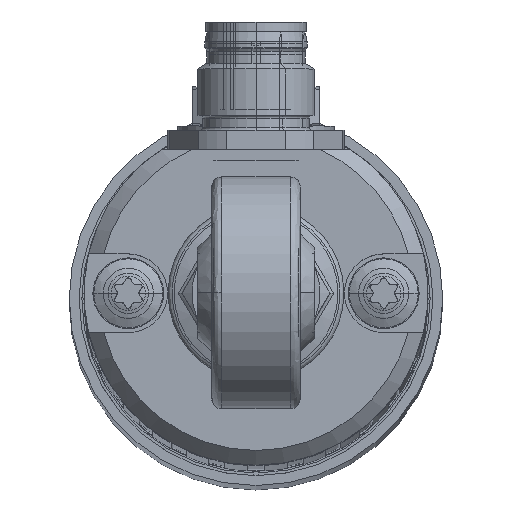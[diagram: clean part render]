
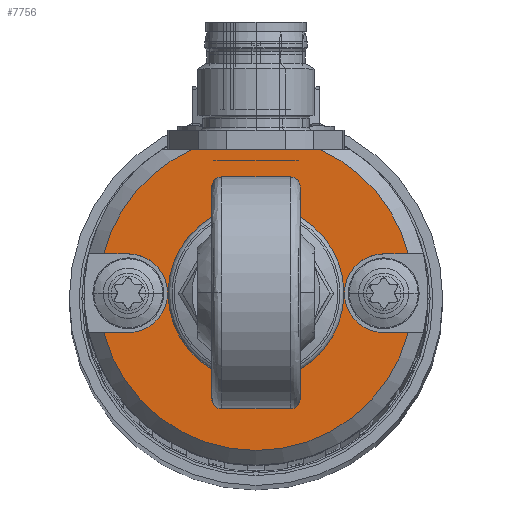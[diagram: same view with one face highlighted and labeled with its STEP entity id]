
A CAD part, top view. The second image highlights one B-rep face of the part: STEP entity #7756.
In plain terms, the highlighted planar face has unit normal (0, 0, 1).
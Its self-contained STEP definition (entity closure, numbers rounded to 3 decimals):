
#7536 = VERTEX_POINT ( 'NONE', #41910 ) ;
#7541 = EDGE_CURVE ( 'NONE', #7536, #7543, #41899, .T. ) ;
#7543 = VERTEX_POINT ( 'NONE', #41893 ) ;
#7734 = EDGE_CURVE ( 'NONE', #7820, #7735, #42364, .T. ) ;
#7735 = VERTEX_POINT ( 'NONE', #42359 ) ;
#7738 = ORIENTED_EDGE ( 'NONE', *, *, #7740, .F. ) ;
#7740 = EDGE_CURVE ( 'NONE', #7742, #7735, #42352, .T. ) ;
#7742 = VERTEX_POINT ( 'NONE', #42348 ) ;
#7745 = ORIENTED_EDGE ( 'NONE', *, *, #7746, .F. ) ;
#7746 = EDGE_CURVE ( 'NONE', #7782, #7742, #42401, .T. ) ;
#7756 = ADVANCED_FACE ( 'NONE', ( #42386, #42385 ), #42429, .F. ) ;
#7757 = EDGE_LOOP ( 'NONE', ( #7759, #7764 ) ) ;
#7759 = ORIENTED_EDGE ( 'NONE', *, *, #7761, .F. ) ;
#7761 = EDGE_CURVE ( 'NONE', #7543, #7536, #42428, .T. ) ;
#7764 = ORIENTED_EDGE ( 'NONE', *, *, #7541, .F. ) ;
#7765 = EDGE_LOOP ( 'NONE', ( #7768, #7811, #7817, #7823, #7738, #7745, #7785, #7791, #7797, #7803 ) ) ;
#7768 = ORIENTED_EDGE ( 'NONE', *, *, #7770, .T. ) ;
#7770 = EDGE_CURVE ( 'NONE', #7771, #7772, #42407, .T. ) ;
#7771 = VERTEX_POINT ( 'NONE', #42403 ) ;
#7772 = VERTEX_POINT ( 'NONE', #42402 ) ;
#7782 = VERTEX_POINT ( 'NONE', #42439 ) ;
#7785 = ORIENTED_EDGE ( 'NONE', *, *, #7787, .T. ) ;
#7787 = EDGE_CURVE ( 'NONE', #7782, #7788, #42432, .T. ) ;
#7788 = VERTEX_POINT ( 'NONE', #42490 ) ;
#7791 = ORIENTED_EDGE ( 'NONE', *, *, #7793, .T. ) ;
#7793 = EDGE_CURVE ( 'NONE', #7788, #7794, #42483, .T. ) ;
#7794 = VERTEX_POINT ( 'NONE', #42478 ) ;
#7797 = ORIENTED_EDGE ( 'NONE', *, *, #7799, .F. ) ;
#7799 = EDGE_CURVE ( 'NONE', #7800, #7794, #42471, .T. ) ;
#7800 = VERTEX_POINT ( 'NONE', #42467 ) ;
#7803 = ORIENTED_EDGE ( 'NONE', *, *, #7804, .F. ) ;
#7804 = EDGE_CURVE ( 'NONE', #7771, #7800, #42520, .T. ) ;
#7811 = ORIENTED_EDGE ( 'NONE', *, *, #7813, .T. ) ;
#7813 = EDGE_CURVE ( 'NONE', #7772, #7814, #42547, .T. ) ;
#7814 = VERTEX_POINT ( 'NONE', #42543 ) ;
#7817 = ORIENTED_EDGE ( 'NONE', *, *, #7819, .T. ) ;
#7819 = EDGE_CURVE ( 'NONE', #7814, #7820, #42536, .T. ) ;
#7820 = VERTEX_POINT ( 'NONE', #42532 ) ;
#7823 = ORIENTED_EDGE ( 'NONE', *, *, #7734, .T. ) ;
#41893 = CARTESIAN_POINT ( 'NONE',  ( 0., -4.3, 330.7 ) ) ;
#41895 = DIRECTION ( 'NONE',  ( 0., -1., 0. ) ) ;
#41896 = DIRECTION ( 'NONE',  ( 0., 0., 1. ) ) ;
#41897 = CARTESIAN_POINT ( 'NONE',  ( 0., 0., 330.7 ) ) ;
#41898 = AXIS2_PLACEMENT_3D ( 'NONE', #41897, #41896, #41895 ) ;
#41899 = CIRCLE ( 'NONE', #41898, 4.3 ) ;
#41910 = CARTESIAN_POINT ( 'NONE',  ( 0., 4.3, 330.7 ) ) ;
#42346 = CARTESIAN_POINT ( 'NONE',  ( -13., 0., 330.7 ) ) ;
#42348 = CARTESIAN_POINT ( 'NONE',  ( -13., 4., 330.7 ) ) ;
#42349 = DIRECTION ( 'NONE',  ( -1., 0., 0. ) ) ;
#42350 = VECTOR ( 'NONE', #42349, 1000. ) ;
#42351 = CARTESIAN_POINT ( 'NONE',  ( -20., 4., 330.7 ) ) ;
#42352 = LINE ( 'NONE', #42351, #42350 ) ;
#42359 = CARTESIAN_POINT ( 'NONE',  ( -15.492, 4., 330.7 ) ) ;
#42360 = DIRECTION ( 'NONE',  ( 0., 1., 0. ) ) ;
#42361 = DIRECTION ( 'NONE',  ( 0., 0., 1. ) ) ;
#42362 = CARTESIAN_POINT ( 'NONE',  ( 0., 0., 330.7 ) ) ;
#42363 = AXIS2_PLACEMENT_3D ( 'NONE', #42362, #42361, #42360 ) ;
#42364 = CIRCLE ( 'NONE', #42363, 16. ) ;
#42385 = FACE_OUTER_BOUND ( 'NONE', #7765, .T. ) ;
#42386 = FACE_BOUND ( 'NONE', #7757, .T. ) ;
#42398 = DIRECTION ( 'NONE',  ( 0., -1., 0. ) ) ;
#42399 = DIRECTION ( 'NONE',  ( 0., 0., 1. ) ) ;
#42400 = AXIS2_PLACEMENT_3D ( 'NONE', #42346, #42399, #42398 ) ;
#42401 = CIRCLE ( 'NONE', #42400, 4. ) ;
#42402 = CARTESIAN_POINT ( 'NONE',  ( 15.492, 4., 330.7 ) ) ;
#42403 = CARTESIAN_POINT ( 'NONE',  ( 13., 4., 330.7 ) ) ;
#42404 = DIRECTION ( 'NONE',  ( 1., 0., 0. ) ) ;
#42405 = VECTOR ( 'NONE', #42404, 1000. ) ;
#42406 = CARTESIAN_POINT ( 'NONE',  ( 0., 4., 330.7 ) ) ;
#42407 = LINE ( 'NONE', #42406, #42405 ) ;
#42420 = DIRECTION ( 'NONE',  ( 0., -1., 0. ) ) ;
#42421 = DIRECTION ( 'NONE',  ( 0., 0., 1. ) ) ;
#42422 = CARTESIAN_POINT ( 'NONE',  ( 0., 0., 330.7 ) ) ;
#42423 = AXIS2_PLACEMENT_3D ( 'NONE', #42422, #42421, #42420 ) ;
#42424 = DIRECTION ( 'NONE',  ( 0., 1., 0. ) ) ;
#42425 = DIRECTION ( 'NONE',  ( 0., 0., -1. ) ) ;
#42426 = CARTESIAN_POINT ( 'NONE',  ( 0., 0., 330.7 ) ) ;
#42427 = AXIS2_PLACEMENT_3D ( 'NONE', #42426, #42425, #42424 ) ;
#42428 = CIRCLE ( 'NONE', #42423, 4.3 ) ;
#42429 = PLANE ( 'NONE',  #42427 ) ;
#42431 = CARTESIAN_POINT ( 'NONE',  ( 0., -4., 330.7 ) ) ;
#42432 = LINE ( 'NONE', #42431, #42492 ) ;
#42439 = CARTESIAN_POINT ( 'NONE',  ( -13., -4., 330.7 ) ) ;
#42467 = CARTESIAN_POINT ( 'NONE',  ( 13., -4., 330.7 ) ) ;
#42468 = DIRECTION ( 'NONE',  ( 1., 0., 0. ) ) ;
#42469 = VECTOR ( 'NONE', #42468, 1000. ) ;
#42470 = CARTESIAN_POINT ( 'NONE',  ( 13., -4., 330.7 ) ) ;
#42471 = LINE ( 'NONE', #42470, #42469 ) ;
#42478 = CARTESIAN_POINT ( 'NONE',  ( 15.492, -4., 330.7 ) ) ;
#42479 = DIRECTION ( 'NONE',  ( 0., 1., 0. ) ) ;
#42480 = DIRECTION ( 'NONE',  ( 0., 0., 1. ) ) ;
#42481 = CARTESIAN_POINT ( 'NONE',  ( 0., 0., 330.7 ) ) ;
#42482 = AXIS2_PLACEMENT_3D ( 'NONE', #42481, #42480, #42479 ) ;
#42483 = CIRCLE ( 'NONE', #42482, 16. ) ;
#42490 = CARTESIAN_POINT ( 'NONE',  ( -15.492, -4., 330.7 ) ) ;
#42491 = DIRECTION ( 'NONE',  ( -1., 0., 0. ) ) ;
#42492 = VECTOR ( 'NONE', #42491, 1000. ) ;
#42516 = DIRECTION ( 'NONE',  ( 0., -1., 0. ) ) ;
#42517 = DIRECTION ( 'NONE',  ( 0., 0., 1. ) ) ;
#42518 = CARTESIAN_POINT ( 'NONE',  ( 13., 0., 330.7 ) ) ;
#42519 = AXIS2_PLACEMENT_3D ( 'NONE', #42518, #42517, #42516 ) ;
#42520 = CIRCLE ( 'NONE', #42519, 4. ) ;
#42532 = CARTESIAN_POINT ( 'NONE',  ( -6.545, 14.6, 330.7 ) ) ;
#42533 = DIRECTION ( 'NONE',  ( -1., 0., 0. ) ) ;
#42534 = VECTOR ( 'NONE', #42533, 1000. ) ;
#42535 = CARTESIAN_POINT ( 'NONE',  ( 0., 14.6, 330.7 ) ) ;
#42536 = LINE ( 'NONE', #42535, #42534 ) ;
#42543 = CARTESIAN_POINT ( 'NONE',  ( 6.545, 14.6, 330.7 ) ) ;
#42544 = DIRECTION ( 'NONE',  ( 0., 1., 0. ) ) ;
#42545 = DIRECTION ( 'NONE',  ( 0., 0., 1. ) ) ;
#42546 = AXIS2_PLACEMENT_3D ( 'NONE', #42553, #42545, #42544 ) ;
#42547 = CIRCLE ( 'NONE', #42546, 16. ) ;
#42553 = CARTESIAN_POINT ( 'NONE',  ( 0., 0., 330.7 ) ) ;
